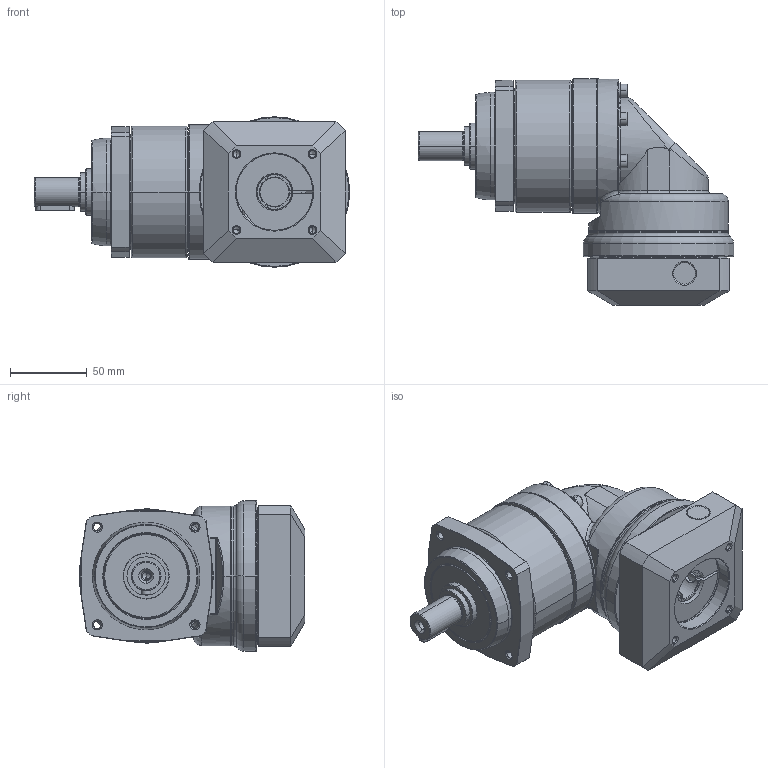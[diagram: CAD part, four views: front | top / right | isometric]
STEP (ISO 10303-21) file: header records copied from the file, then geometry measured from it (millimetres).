
FILE_DESCRIPTION((''),'2;1');
FILE_NAME('PS2R-C_1ST_19-P0411400101_ASM','2016-05-27T',('d01943'),(''),'PRO/ENGINEER BY PARAMETRIC TECHNOLOGY CORPORATION, 2008410','PRO/ENGINEER BY PARAMETRIC TECHNOLOGY CORPORATION, 2008410','');
FILE_SCHEMA(('CONFIG_CONTROL_DESIGN'));
Length unit declared in the file: millimetre
Products named in the file (12): P1328310001; P0250300001; P0350301401; P1349300001; P1017300001; P0713301001; P0503400008; P1350300101; P0411400101; P1702500001; 2111BA05025; PS2R-C_1ST_19-P0411400101_ASM
Assembly tree (16 placements, depth 2):
  PS2R-C_1ST_19-P0411400101_ASM
    P1328310001
    P0250300001
    P0350301401
    P1349300001
    P1017300001
    P0713301001
    P0503400008
    P1350300101
    P0411400101
    P1702500001
    2111BA05025  x6
Bounding box: 205.5 x 147.25 x 98 mm (x, y, z)
Volume: 804124.8 mm3; surface area: 201861.1 mm2
Topology: 16 solids, 16 shells, 796 faces, 1749 edges, 1014 vertices
Faces by surface type: cylinder 248, cone 232, plane 190, torus 92, bspline 34
Entity records: 23445 total; most frequent: CARTESIAN_POINT 9237, DIRECTION 3152, ORIENTED_EDGE 2746, EDGE_CURVE 1373, AXIS2_PLACEMENT_3D 1334, VERTEX_POINT 814, EDGE_LOOP 719, CIRCLE 709
